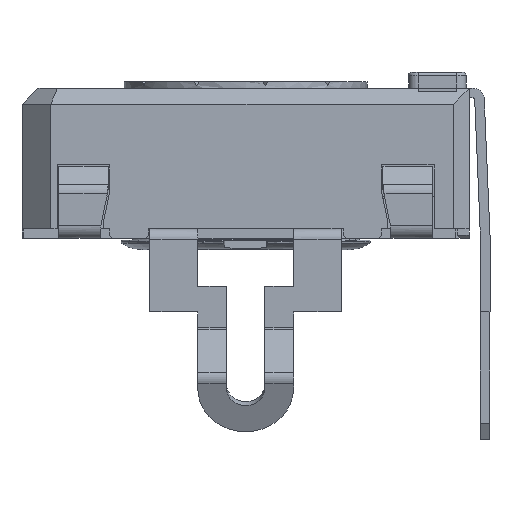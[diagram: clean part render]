
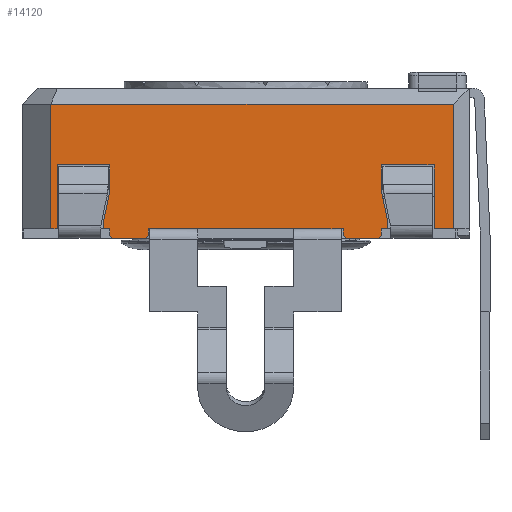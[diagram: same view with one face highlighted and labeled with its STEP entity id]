
A CAD part, left-side view. The second image highlights one B-rep face of the part: STEP entity #14120.
In plain terms, the highlighted planar face has unit normal (-1, 0, 0).
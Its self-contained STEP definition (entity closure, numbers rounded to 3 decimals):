
#481=PLANE('',#15100);
#1137=FACE_OUTER_BOUND('',#1881,.T.);
#1881=EDGE_LOOP('',(#11713,#11714,#11715,#11716,#11717,#11718,#11719,#11720,
#11721,#11722,#11723,#11724,#11725,#11726,#11727,#11728,#11729,#11730,#11731,
#11732,#11733,#11734,#11735,#11736,#11737,#11738,#11739,#11740));
#2450=LINE('',#20128,#4060);
#2455=LINE('',#20138,#4065);
#2460=LINE('',#20148,#4070);
#2571=LINE('',#20394,#4181);
#3066=LINE('',#21820,#4676);
#3071=LINE('',#21829,#4681);
#3074=LINE('',#21835,#4684);
#3078=LINE('',#21842,#4688);
#3102=LINE('',#21890,#4712);
#3105=LINE('',#21896,#4715);
#3110=LINE('',#21906,#4720);
#3113=LINE('',#21912,#4723);
#3116=LINE('',#21918,#4726);
#3131=LINE('',#21945,#4741);
#3143=LINE('',#21967,#4753);
#3145=LINE('',#21972,#4755);
#3180=LINE('',#22100,#4790);
#3183=LINE('',#22106,#4793);
#3188=LINE('',#22116,#4798);
#3190=LINE('',#22119,#4800);
#3296=LINE('',#22395,#4906);
#3298=LINE('',#22400,#4908);
#3301=LINE('',#22404,#4911);
#3303=LINE('',#22408,#4913);
#3306=LINE('',#22416,#4916);
#3307=LINE('',#22418,#4917);
#3308=LINE('',#22419,#4918);
#3309=LINE('',#22420,#4919);
#4060=VECTOR('',#16140,10.);
#4065=VECTOR('',#16145,10.);
#4070=VECTOR('',#16150,10.);
#4181=VECTOR('',#16359,10.);
#4676=VECTOR('',#17568,10.);
#4681=VECTOR('',#17575,10.);
#4684=VECTOR('',#17580,10.);
#4688=VECTOR('',#17586,10.);
#4712=VECTOR('',#17630,10.);
#4715=VECTOR('',#17635,10.);
#4720=VECTOR('',#17642,10.);
#4723=VECTOR('',#17647,10.);
#4726=VECTOR('',#17652,10.);
#4741=VECTOR('',#17669,10.);
#4753=VECTOR('',#17683,10.);
#4755=VECTOR('',#17687,10.);
#4790=VECTOR('',#17766,10.);
#4793=VECTOR('',#17771,10.);
#4798=VECTOR('',#17778,10.);
#4800=VECTOR('',#17782,10.);
#4906=VECTOR('',#18042,10.);
#4908=VECTOR('',#18046,10.);
#4911=VECTOR('',#18051,10.);
#4913=VECTOR('',#18057,10.);
#4916=VECTOR('',#18068,10.);
#4917=VECTOR('',#18069,10.);
#4918=VECTOR('',#18070,10.);
#4919=VECTOR('',#18071,10.);
#6017=VERTEX_POINT('',#20125);
#6018=VERTEX_POINT('',#20127);
#6022=VERTEX_POINT('',#20135);
#6023=VERTEX_POINT('',#20137);
#6027=VERTEX_POINT('',#20145);
#6028=VERTEX_POINT('',#20147);
#6113=VERTEX_POINT('',#20391);
#6114=VERTEX_POINT('',#20393);
#6531=VERTEX_POINT('',#21817);
#6532=VERTEX_POINT('',#21819);
#6536=VERTEX_POINT('',#21832);
#6539=VERTEX_POINT('',#21840);
#6552=VERTEX_POINT('',#21887);
#6554=VERTEX_POINT('',#21893);
#6558=VERTEX_POINT('',#21903);
#6560=VERTEX_POINT('',#21909);
#6563=VERTEX_POINT('',#21916);
#6574=VERTEX_POINT('',#21943);
#6583=VERTEX_POINT('',#21965);
#6585=VERTEX_POINT('',#21970);
#6609=VERTEX_POINT('',#22103);
#6613=VERTEX_POINT('',#22113);
#6680=VERTEX_POINT('',#22392);
#6681=VERTEX_POINT('',#22394);
#6682=VERTEX_POINT('',#22398);
#6683=VERTEX_POINT('',#22399);
#6684=VERTEX_POINT('',#22415);
#6685=VERTEX_POINT('',#22417);
#7428=EDGE_CURVE('',#6018,#6017,#2450,.T.);
#7433=EDGE_CURVE('',#6023,#6022,#2455,.T.);
#7438=EDGE_CURVE('',#6028,#6027,#2460,.T.);
#7563=EDGE_CURVE('',#6114,#6113,#2571,.T.);
#8212=EDGE_CURVE('',#6532,#6531,#3066,.T.);
#8217=EDGE_CURVE('',#6531,#6028,#3071,.T.);
#8220=EDGE_CURVE('',#6027,#6536,#3074,.T.);
#8224=EDGE_CURVE('',#6539,#6536,#3078,.T.);
#8249=EDGE_CURVE('',#6017,#6552,#3102,.T.);
#8252=EDGE_CURVE('',#6552,#6554,#3105,.T.);
#8257=EDGE_CURVE('',#6554,#6558,#3110,.T.);
#8260=EDGE_CURVE('',#6558,#6560,#3113,.T.);
#8263=EDGE_CURVE('',#6560,#6563,#3116,.T.);
#8278=EDGE_CURVE('',#6563,#6574,#3131,.T.);
#8290=EDGE_CURVE('',#6583,#6574,#3143,.T.);
#8292=EDGE_CURVE('',#6585,#6583,#3145,.T.);
#8339=EDGE_CURVE('',#6114,#6585,#3180,.T.);
#8342=EDGE_CURVE('',#6113,#6609,#3183,.T.);
#8347=EDGE_CURVE('',#6609,#6613,#3188,.T.);
#8349=EDGE_CURVE('',#6613,#6532,#3190,.T.);
#8471=EDGE_CURVE('',#6680,#6681,#3296,.T.);
#8473=EDGE_CURVE('',#6682,#6683,#3298,.T.);
#8476=EDGE_CURVE('',#6018,#6680,#3301,.T.);
#8478=EDGE_CURVE('',#6022,#6683,#3303,.T.);
#8481=EDGE_CURVE('',#6539,#6684,#3306,.T.);
#8482=EDGE_CURVE('',#6685,#6684,#3307,.T.);
#8483=EDGE_CURVE('',#6023,#6685,#3308,.T.);
#8484=EDGE_CURVE('',#6682,#6681,#3309,.T.);
#11713=ORIENTED_EDGE('',*,*,#8217,.T.);
#11714=ORIENTED_EDGE('',*,*,#7438,.T.);
#11715=ORIENTED_EDGE('',*,*,#8220,.T.);
#11716=ORIENTED_EDGE('',*,*,#8224,.F.);
#11717=ORIENTED_EDGE('',*,*,#8481,.T.);
#11718=ORIENTED_EDGE('',*,*,#8482,.F.);
#11719=ORIENTED_EDGE('',*,*,#8483,.F.);
#11720=ORIENTED_EDGE('',*,*,#7433,.T.);
#11721=ORIENTED_EDGE('',*,*,#8478,.T.);
#11722=ORIENTED_EDGE('',*,*,#8473,.F.);
#11723=ORIENTED_EDGE('',*,*,#8484,.T.);
#11724=ORIENTED_EDGE('',*,*,#8471,.F.);
#11725=ORIENTED_EDGE('',*,*,#8476,.F.);
#11726=ORIENTED_EDGE('',*,*,#7428,.T.);
#11727=ORIENTED_EDGE('',*,*,#8249,.T.);
#11728=ORIENTED_EDGE('',*,*,#8252,.T.);
#11729=ORIENTED_EDGE('',*,*,#8257,.T.);
#11730=ORIENTED_EDGE('',*,*,#8260,.T.);
#11731=ORIENTED_EDGE('',*,*,#8263,.T.);
#11732=ORIENTED_EDGE('',*,*,#8278,.T.);
#11733=ORIENTED_EDGE('',*,*,#8290,.F.);
#11734=ORIENTED_EDGE('',*,*,#8292,.F.);
#11735=ORIENTED_EDGE('',*,*,#8339,.F.);
#11736=ORIENTED_EDGE('',*,*,#7563,.T.);
#11737=ORIENTED_EDGE('',*,*,#8342,.T.);
#11738=ORIENTED_EDGE('',*,*,#8347,.T.);
#11739=ORIENTED_EDGE('',*,*,#8349,.T.);
#11740=ORIENTED_EDGE('',*,*,#8212,.T.);
#14120=ADVANCED_FACE('',(#1137),#481,.T.);
#15100=AXIS2_PLACEMENT_3D('',#22414,#18066,#18067);
#16140=DIRECTION('',(0.,-1.,0.));
#16145=DIRECTION('',(0.,-1.,0.));
#16150=DIRECTION('',(0.,-1.,0.));
#16359=DIRECTION('',(0.,-1.,0.));
#17568=DIRECTION('',(0.,0.208,-0.978));
#17575=DIRECTION('',(0.,0.,-1.));
#17580=DIRECTION('',(0.,0.,-1.));
#17586=DIRECTION('',(0.,0.707,0.707));
#17630=DIRECTION('',(0.,0.,1.));
#17635=DIRECTION('',(0.,0.208,0.978));
#17642=DIRECTION('',(0.,0.,1.));
#17647=DIRECTION('',(0.,-1.,0.));
#17652=DIRECTION('',(0.,0.,-1.));
#17669=DIRECTION('',(0.,-1.,0.));
#17683=DIRECTION('',(0.,0.,-1.));
#17687=DIRECTION('',(0.,-1.,0.));
#17766=DIRECTION('',(0.,0.,1.));
#17771=DIRECTION('',(0.,0.,1.));
#17778=DIRECTION('',(0.,-1.,0.));
#17782=DIRECTION('',(0.,0.,-1.));
#18042=DIRECTION('',(0.,0.707,-0.707));
#18046=DIRECTION('',(0.,0.707,0.707));
#18051=DIRECTION('',(0.,0.,-1.));
#18057=DIRECTION('',(0.,0.,-1.));
#18066=DIRECTION('center_axis',(-1.,0.,0.));
#18067=DIRECTION('ref_axis',(0.,0.,1.));
#18068=DIRECTION('',(0.,-1.,0.));
#18069=DIRECTION('',(0.,0.707,-0.707));
#18070=DIRECTION('',(0.,0.,-1.));
#18071=DIRECTION('',(0.,-1.,0.));
#20125=CARTESIAN_POINT('',(-14.467,-7.348,0.));
#20127=CARTESIAN_POINT('',(-14.467,-7.148,0.));
#20128=CARTESIAN_POINT('',(-14.467,4.102,0.));
#20135=CARTESIAN_POINT('',(-14.467,-5.948,0.));
#20137=CARTESIAN_POINT('',(-14.467,0.152,0.));
#20138=CARTESIAN_POINT('',(-14.467,4.102,0.));
#20145=CARTESIAN_POINT('',(-14.467,1.352,0.));
#20147=CARTESIAN_POINT('',(-14.467,1.552,0.));
#20148=CARTESIAN_POINT('',(-14.467,4.102,0.));
#20391=CARTESIAN_POINT('',(-14.467,3.002,0.));
#20393=CARTESIAN_POINT('',(-14.467,3.202,0.));
#20394=CARTESIAN_POINT('',(-14.467,-2.985,0.));
#21817=CARTESIAN_POINT('',(-14.467,1.552,0.235));
#21819=CARTESIAN_POINT('',(-14.467,1.352,1.176));
#21820=CARTESIAN_POINT('',(-14.467,1.228,1.757));
#21829=CARTESIAN_POINT('',(-14.467,1.552,0.));
#21832=CARTESIAN_POINT('',(-14.467,1.352,-0.2));
#21835=CARTESIAN_POINT('',(-14.467,1.352,0.));
#21840=CARTESIAN_POINT('',(-14.467,1.252,-0.3));
#21842=CARTESIAN_POINT('',(-14.467,-1.436,-2.988));
#21887=CARTESIAN_POINT('',(-14.467,-7.348,0.235));
#21890=CARTESIAN_POINT('',(-14.467,-7.348,0.118));
#21893=CARTESIAN_POINT('',(-14.467,-7.148,1.176));
#21896=CARTESIAN_POINT('',(-14.467,-7.453,-0.254));
#21903=CARTESIAN_POINT('',(-14.467,-7.148,2.));
#21906=CARTESIAN_POINT('',(-14.467,-7.148,0.588));
#21909=CARTESIAN_POINT('',(-14.467,-8.798,2.));
#21912=CARTESIAN_POINT('',(-14.467,-8.523,2.));
#21916=CARTESIAN_POINT('',(-14.467,-8.798,0.));
#21918=CARTESIAN_POINT('',(-14.467,-8.798,0.));
#21943=CARTESIAN_POINT('',(-14.467,-9.398,0.));
#21945=CARTESIAN_POINT('',(-14.467,-9.595,0.));
#21965=CARTESIAN_POINT('',(-14.467,-9.398,3.9));
#21967=CARTESIAN_POINT('',(-14.467,-9.398,0.));
#21970=CARTESIAN_POINT('',(-14.467,3.202,3.9));
#21972=CARTESIAN_POINT('',(-14.467,-6.398,3.9));
#22100=CARTESIAN_POINT('',(-14.467,3.202,0.));
#22103=CARTESIAN_POINT('',(-14.467,3.002,2.));
#22106=CARTESIAN_POINT('',(-14.467,3.002,0.));
#22113=CARTESIAN_POINT('',(-14.467,1.352,2.));
#22116=CARTESIAN_POINT('',(-14.467,-3.448,2.));
#22119=CARTESIAN_POINT('',(-14.467,1.352,1.));
#22392=CARTESIAN_POINT('',(-14.467,-7.148,-0.2));
#22394=CARTESIAN_POINT('',(-14.467,-7.048,-0.3));
#22395=CARTESIAN_POINT('',(-14.467,-7.861,0.513));
#22398=CARTESIAN_POINT('',(-14.467,-6.048,-0.3));
#22399=CARTESIAN_POINT('',(-14.467,-5.948,-0.2));
#22400=CARTESIAN_POINT('',(-14.467,-6.911,-1.163));
#22404=CARTESIAN_POINT('',(-14.467,-7.148,0.));
#22408=CARTESIAN_POINT('',(-14.467,-5.948,0.));
#22414=CARTESIAN_POINT('Origin',(-14.467,-9.898,0.));
#22415=CARTESIAN_POINT('',(-14.467,0.252,-0.3));
#22416=CARTESIAN_POINT('',(-14.467,0.152,-0.3));
#22417=CARTESIAN_POINT('',(-14.467,0.152,-0.2));
#22418=CARTESIAN_POINT('',(-14.467,-2.386,2.338));
#22419=CARTESIAN_POINT('',(-14.467,0.152,0.));
#22420=CARTESIAN_POINT('',(-14.467,-7.148,-0.3));
